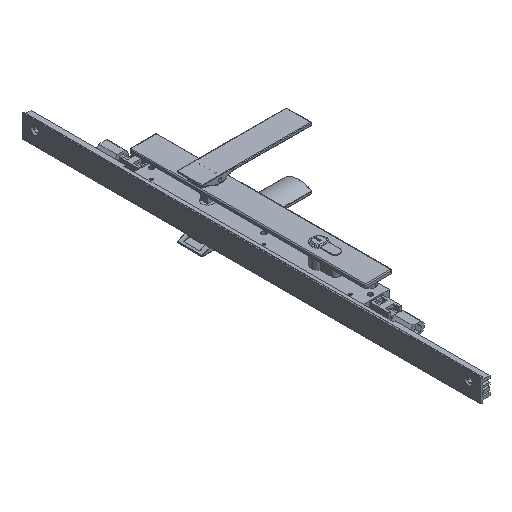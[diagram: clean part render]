
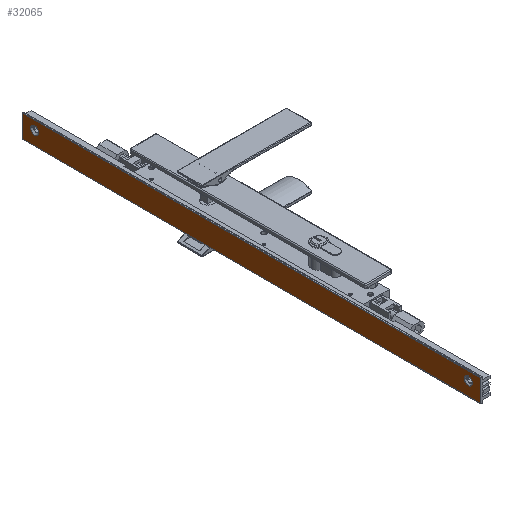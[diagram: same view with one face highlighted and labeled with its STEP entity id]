
A CAD part, isometric view. The second image highlights one B-rep face of the part: STEP entity #32065.
In plain terms, the highlighted planar face has unit normal (-1, 0, 0) as drawn and (0, 1, 0) by its records, which use the part's own axes.
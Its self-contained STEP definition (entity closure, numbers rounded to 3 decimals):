
#1246 = CARTESIAN_POINT ( 'NONE',  ( 11.8, 12.4, 529. ) ) ;
#2447 = CARTESIAN_POINT ( 'NONE',  ( 20.8, 12.4, 544. ) ) ;
#2764 = CARTESIAN_POINT ( 'NONE',  ( -4.4, 12.4, 0. ) ) ;
#2916 = LINE ( 'NONE', #2447, #13303 ) ;
#3171 = DIRECTION ( 'NONE',  ( 0., 0., 1. ) ) ;
#3526 = EDGE_CURVE ( 'NONE', #26555, #22816, #21813, .T. ) ;
#5306 = EDGE_CURVE ( 'NONE', #17857, #21266, #30433, .T. ) ;
#5310 = LINE ( 'NONE', #2764, #8958 ) ;
#6628 = CARTESIAN_POINT ( 'NONE',  ( -4.4, 12.4, 0. ) ) ;
#6886 = AXIS2_PLACEMENT_3D ( 'NONE', #23970, #26506, #11031 ) ;
#6985 = DIRECTION ( 'NONE',  ( 0., -1., 0. ) ) ;
#7537 = DIRECTION ( 'NONE',  ( -1., 0., 0. ) ) ;
#7580 = VERTEX_POINT ( 'NONE', #27836 ) ;
#7891 = ORIENTED_EDGE ( 'NONE', *, *, #3526, .T. ) ;
#8094 = CARTESIAN_POINT ( 'NONE',  ( 11.8, 12.4, 529. ) ) ;
#8110 = ORIENTED_EDGE ( 'NONE', *, *, #5306, .F. ) ;
#8123 = DIRECTION ( 'NONE',  ( 0., 0., 1. ) ) ;
#8287 = DIRECTION ( 'NONE',  ( 0., 1., 0. ) ) ;
#8518 = DIRECTION ( 'NONE',  ( -1., 0., 0. ) ) ;
#8882 = EDGE_CURVE ( 'NONE', #7580, #20983, #33475, .T. ) ;
#8958 = VECTOR ( 'NONE', #13149, 1000. ) ;
#9410 = DIRECTION ( 'NONE',  ( 0., 1., 0. ) ) ;
#9552 = CARTESIAN_POINT ( 'NONE',  ( 20.8, 12.4, 544. ) ) ;
#9846 = AXIS2_PLACEMENT_3D ( 'NONE', #8094, #25806, #3171 ) ;
#9935 = ORIENTED_EDGE ( 'NONE', *, *, #18127, .F. ) ;
#10916 = ORIENTED_EDGE ( 'NONE', *, *, #30786, .F. ) ;
#11031 = DIRECTION ( 'NONE',  ( 0., 0., 1. ) ) ;
#12097 = FACE_BOUND ( 'NONE', #23225, .T. ) ;
#12237 = DIRECTION ( 'NONE',  ( 0., 0., 1. ) ) ;
#13149 = DIRECTION ( 'NONE',  ( 0., 0., 1. ) ) ;
#13292 = ORIENTED_EDGE ( 'NONE', *, *, #31798, .T. ) ;
#13303 = VECTOR ( 'NONE', #7537, 1000. ) ;
#13486 = VECTOR ( 'NONE', #8518, 1000. ) ;
#14967 = EDGE_CURVE ( 'NONE', #21266, #17857, #31114, .T. ) ;
#16042 = ORIENTED_EDGE ( 'NONE', *, *, #14967, .F. ) ;
#17057 = CARTESIAN_POINT ( 'NONE',  ( 11.8, 12.4, 533.889 ) ) ;
#17353 = CARTESIAN_POINT ( 'NONE',  ( 11.8, 12.4, 524.111 ) ) ;
#17857 = VERTEX_POINT ( 'NONE', #17353 ) ;
#18127 = EDGE_CURVE ( 'NONE', #20983, #7580, #25091, .T. ) ;
#18507 = CARTESIAN_POINT ( 'NONE',  ( 11.8, 12.4, 15. ) ) ;
#20177 = EDGE_CURVE ( 'NONE', #26555, #26681, #32606, .T. ) ;
#20683 = CARTESIAN_POINT ( 'NONE',  ( 11.8, 12.4, 19.89 ) ) ;
#20776 = ORIENTED_EDGE ( 'NONE', *, *, #8882, .F. ) ;
#20983 = VERTEX_POINT ( 'NONE', #20683 ) ;
#21266 = VERTEX_POINT ( 'NONE', #17057 ) ;
#21813 = LINE ( 'NONE', #32115, #13486 ) ;
#21833 = AXIS2_PLACEMENT_3D ( 'NONE', #18507, #8287, #8123 ) ;
#22162 = ORIENTED_EDGE ( 'NONE', *, *, #20177, .F. ) ;
#22502 = PLANE ( 'NONE',  #29033 ) ;
#22816 = VERTEX_POINT ( 'NONE', #6628 ) ;
#23149 = CARTESIAN_POINT ( 'NONE',  ( 22., 12.4, 544. ) ) ;
#23225 = EDGE_LOOP ( 'NONE', ( #16042, #8110 ) ) ;
#23970 = CARTESIAN_POINT ( 'NONE',  ( 11.8, 12.4, 15. ) ) ;
#24823 = CARTESIAN_POINT ( 'NONE',  ( 22., 12.4, 0. ) ) ;
#25032 = FACE_BOUND ( 'NONE', #32330, .T. ) ;
#25091 = CIRCLE ( 'NONE', #21833, 4.89 ) ;
#25806 = DIRECTION ( 'NONE',  ( 0., 1., 0. ) ) ;
#26506 = DIRECTION ( 'NONE',  ( 0., 1., 0. ) ) ;
#26555 = VERTEX_POINT ( 'NONE', #24823 ) ;
#26681 = VERTEX_POINT ( 'NONE', #23149 ) ;
#26829 = VERTEX_POINT ( 'NONE', #29619 ) ;
#27726 = DIRECTION ( 'NONE',  ( 1., 0., 0. ) ) ;
#27836 = CARTESIAN_POINT ( 'NONE',  ( 11.8, 12.4, 10.111 ) ) ;
#27878 = CARTESIAN_POINT ( 'NONE',  ( 22., 12.4, 0. ) ) ;
#29033 = AXIS2_PLACEMENT_3D ( 'NONE', #9552, #6985, #27726 ) ;
#29619 = CARTESIAN_POINT ( 'NONE',  ( -4.4, 12.4, 544. ) ) ;
#30134 = VECTOR ( 'NONE', #12237, 1000. ) ;
#30255 = FACE_OUTER_BOUND ( 'NONE', #31284, .T. ) ;
#30433 = CIRCLE ( 'NONE', #9846, 4.889 ) ;
#30786 = EDGE_CURVE ( 'NONE', #26681, #26829, #2916, .T. ) ;
#31114 = CIRCLE ( 'NONE', #31715, 4.889 ) ;
#31284 = EDGE_LOOP ( 'NONE', ( #7891, #13292, #10916, #22162 ) ) ;
#31715 = AXIS2_PLACEMENT_3D ( 'NONE', #1246, #9410, #32483 ) ;
#31798 = EDGE_CURVE ( 'NONE', #22816, #26829, #5310, .T. ) ;
#32065 = ADVANCED_FACE ( 'NONE', ( #25032, #12097, #30255 ), #22502, .F. ) ;
#32115 = CARTESIAN_POINT ( 'NONE',  ( 20.8, 12.4, 0. ) ) ;
#32330 = EDGE_LOOP ( 'NONE', ( #9935, #20776 ) ) ;
#32483 = DIRECTION ( 'NONE',  ( 0., 0., 1. ) ) ;
#32606 = LINE ( 'NONE', #27878, #30134 ) ;
#33475 = CIRCLE ( 'NONE', #6886, 4.89 ) ;
